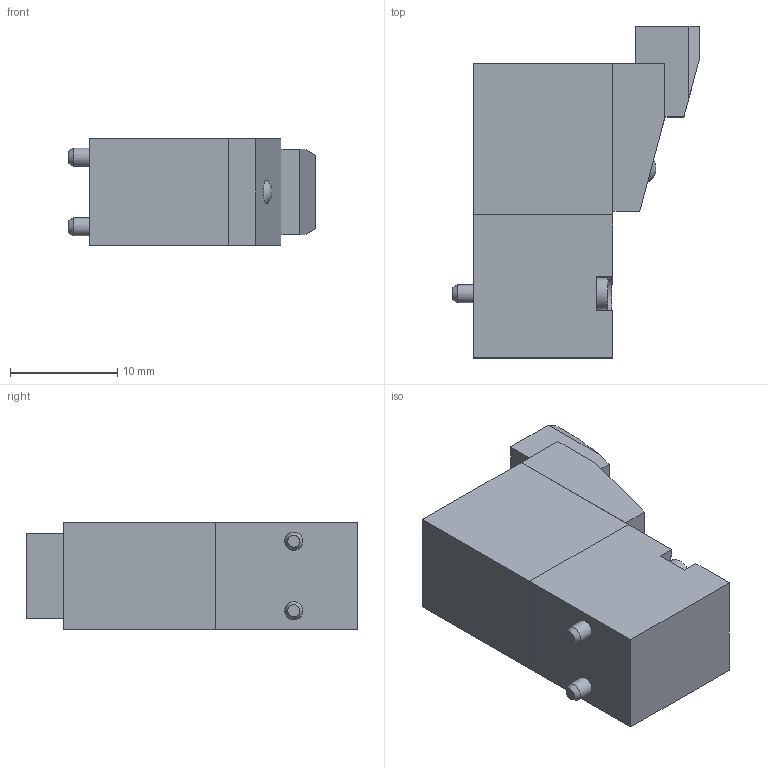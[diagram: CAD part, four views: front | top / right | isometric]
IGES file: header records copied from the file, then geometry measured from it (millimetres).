
Global section: file name: N3##_3; native system: Autodesk Inventor 2014; preprocessor: unknown; author: A. Manieri; organization: Pneumax S.p.A.; date: 20161005.083548; units: millimetre
Bounding box: 23.1 x 31 x 10 mm (x, y, z)
Volume: 4274.3 mm3; surface area: 2049.7 mm2
Topology: 1 solids, 1 shells, 90 faces, 227 edges, 149 vertices
Faces by surface type: bspline 90
